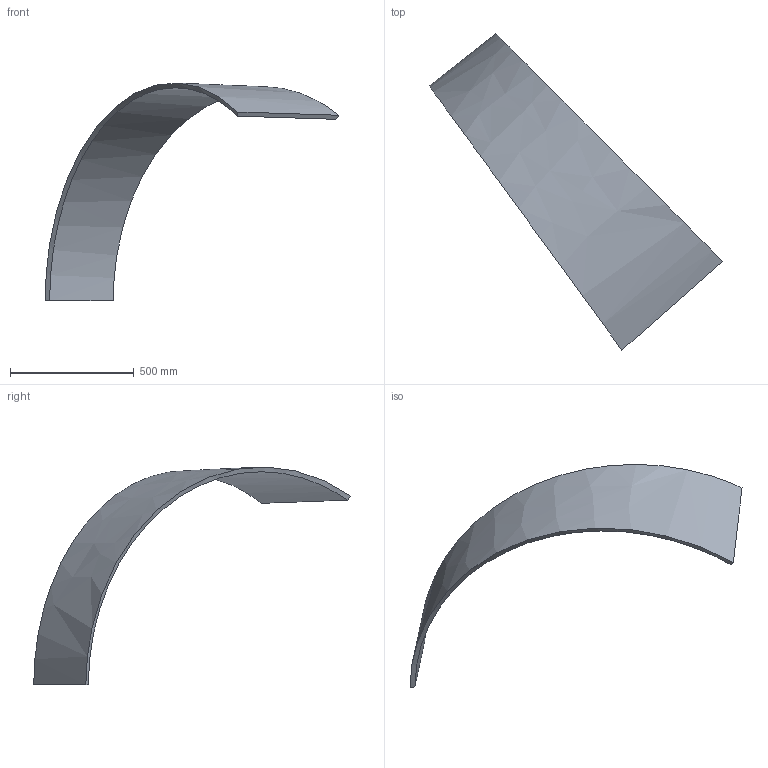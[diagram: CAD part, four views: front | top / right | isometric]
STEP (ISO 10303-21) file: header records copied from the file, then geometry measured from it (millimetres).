
FILE_DESCRIPTION (( 'STEP AP214' ), '1' );
FILE_NAME ('P9.2Mirror.STEP', '2025-01-09T19:43:29', ( '' ), ( '' ), 'SwSTEP 2.0', 'SolidWorks 2024', '' );
FILE_SCHEMA (( 'AUTOMOTIVE_DESIGN' ));
Length unit declared in the file: inch
Products named in the file (1): P9.2Mirror
Bounding box: 1184.71 x 1276.95 x 879.17 mm (x, y, z)
Volume: 14154169.6 mm3; surface area: 1576881.3 mm2
Topology: 1 solids, 1 shells, 6 faces, 12 edges, 8 vertices
Faces by surface type: bspline 6
Entity records: 1929 total; most frequent: CARTESIAN_POINT 1815, ORIENTED_EDGE 24, EDGE_CURVE 12, B_SPLINE_CURVE_WITH_KNOTS 12, VERTEX_POINT 8, EDGE_LOOP 6, FACE_OUTER_BOUND 6, ADVANCED_FACE 6
